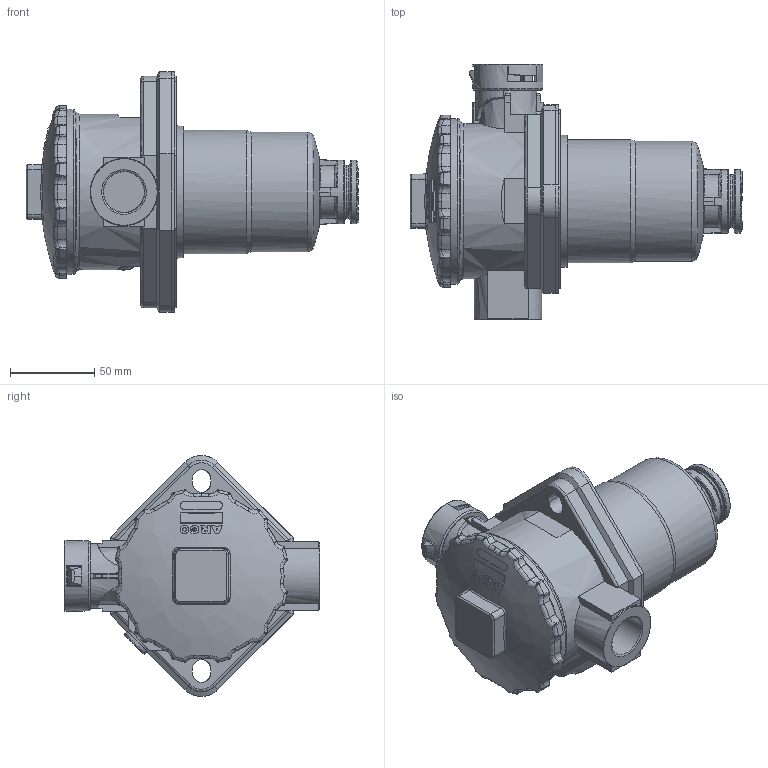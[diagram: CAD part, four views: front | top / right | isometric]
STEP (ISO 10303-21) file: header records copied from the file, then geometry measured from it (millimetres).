
FILE_DESCRIPTION((''),'2;1');
FILE_NAME( 'U:\Users\t.schleuter\Ruecklauffilter(13258700(235268)).stp', '2013-04-12T11:17:04',('User'),('SDRC'),'I-DEAS Master Series 9','UNIX', 'Yes');
FILE_SCHEMA(('AUTOMOTIVE_DESIGN { 1 0 10303 214 1 1 1 1 }'));
Length unit declared in the file: millimetre
Products named in the file (1): 13258700(235268)
Bounding box: 196.6 x 151.5 x 142.65 mm (x, y, z)
Volume: 983789.1 mm3; surface area: 107679.3 mm2
Topology: 1 solids, 4 shells, 772 faces, 2041 edges, 1280 vertices
Faces by surface type: bspline 772
Entity records: 27979 total; most frequent: CARTESIAN_POINT 16574, ORIENTED_EDGE 3992, EDGE_CURVE 1996, VERTEX_POINT 1244, B_SPLINE_CURVE_WITH_KNOTS 1051, EDGE_LOOP 812, FACE_OUTER_BOUND 772, ADVANCED_FACE 772
